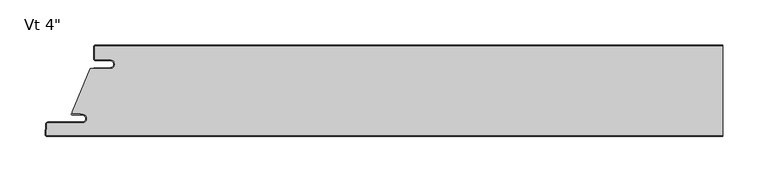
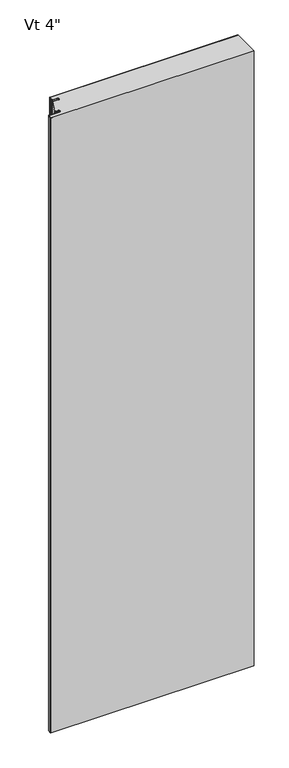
"""IFC4 building model written with IfcOpenShell, lengths in millimetres: plate geometry."""

from ifc_helpers import new_model, si_unit, point, frame_2d, origin, origin_with_axes, place, context, project, spatial, polyline, circle_curve, trimmed, segment, composite_curve, outline, extrude, source, transform, mapped, element, save


def plate_40312dbb(model_context):
    return source(origin(), model_context, "Body", "SweptSolid", [
        extrude(outline(composite_curve([segment(polyline([(-329.9499998, -16.4625), (-345.8249998, -16.4625)]), True, "CONTINUOUS"), segment(trimmed(circle_curve(frame_2d((-345.8249998, -15.08125)), 1.38125), [point((-345.8249998, -16.4625))], [point((-347.2062498, -15.08125))], False, "CARTESIAN"), True, "CONTINUOUS"), segment(polyline([(-347.2062498, -15.08125), (-347.2062498, -2.38125)]), True, "CONTINUOUS"), segment(trimmed(circle_curve(frame_2d((-345.8249998, -2.38125)), 1.38125), [point((-347.2062498, -2.38125))], [point((-345.8249998, -1.0))], False, "CARTESIAN"), True, "CONTINUOUS"), segment(polyline([(-345.8249998, -1.0), (348.9999998, -1.0), (348.9999998, -100.6), (-399.6862034, -100.6)]), True, "CONTINUOUS"), segment(trimmed(circle_curve(frame_2d((-399.6862034, -99.21875)), 1.38125), [point((-399.6862034, -100.6))], [point((-401.0655604, -99.146461))], False, "CARTESIAN"), True, "CONTINUOUS"), segment(polyline([(-401.0655604, -99.146461), (-400.483179, -88.033961)]), True, "CONTINUOUS"), segment(trimmed(circle_curve(frame_2d((-399.1038219, -88.10625)), 1.38125), [point((-400.483179, -88.033961))], [point((-399.1038219, -86.725))], False, "CARTESIAN"), True, "CONTINUOUS"), segment(polyline([(-399.1038219, -86.725), (-360.9205173, -86.725)]), True, "CONTINUOUS"), segment(trimmed(circle_curve(frame_2d((-360.9205173, -81.75625)), 4.96875), [point((-360.9205173, -86.725))], [point((-360.9205173, -76.7875))], True, "CARTESIAN"), True, "CONTINUOUS"), segment(polyline([(-360.9205173, -76.7875), (-362.5080173, -76.99375), (-362.5080173, -76.2), (-372.0187498, -76.2), (-372.0187498, -74.6157227), (-352.1323421, -26.4), (-329.9499998, -26.4)]), True, "CONTINUOUS"), segment(trimmed(circle_curve(frame_2d((-329.9499998, -21.43125)), 4.96875), [point((-329.9499998, -26.4))], [point((-329.9499998, -16.4625))], True, "CARTESIAN"), True, "CONTINUOUS")], self_intersect=False)), origin_with_axes(), (0.0, 0.0, 1.0), 2400.0),
        extrude(outline(composite_curve([segment(polyline([(-348.2062498, -25.4), (-329.9499998, -25.4)]), True, "CONTINUOUS"), segment(trimmed(circle_curve(frame_2d((-329.9499998, -21.43125)), 3.96875), [point((-329.9499998, -25.4))], [point((-329.9499998, -17.4625))], True, "CARTESIAN"), True, "CONTINUOUS"), segment(polyline([(-329.9499998, -17.4625), (-345.8249998, -17.4625)]), True, "CONTINUOUS"), segment(trimmed(circle_curve(frame_2d((-345.8249998, -15.08125)), 2.38125), [point((-345.8249998, -17.4625))], [point((-348.2062498, -15.08125))], False, "CARTESIAN"), True, "CONTINUOUS"), segment(polyline([(-348.2062498, -15.08125), (-348.2062498, -2.38125)]), True, "CONTINUOUS"), segment(trimmed(circle_curve(frame_2d((-345.8249998, -2.38125)), 2.38125), [point((-348.2062498, -2.38125))], [point((-345.8249998, 0.0))], False, "CARTESIAN"), True, "CONTINUOUS"), segment(polyline([(-345.8249998, 0.0), (348.9999998, 0.0), (348.9999998, -1.0), (-345.8249998, -1.0)]), True, "CONTINUOUS"), segment(trimmed(circle_curve(frame_2d((-345.8249998, -2.38125)), 1.38125), [point((-345.8249998, -1.0))], [point((-347.2062498, -2.38125))], True, "CARTESIAN"), True, "CONTINUOUS"), segment(polyline([(-347.2062498, -2.38125), (-347.2062498, -15.08125)]), True, "CONTINUOUS"), segment(trimmed(circle_curve(frame_2d((-345.8249998, -15.08125)), 1.38125), [point((-347.2062498, -15.08125))], [point((-345.8249998, -16.4625))], True, "CARTESIAN"), True, "CONTINUOUS"), segment(polyline([(-345.8249998, -16.4625), (-329.9499998, -16.4625)]), True, "CONTINUOUS"), segment(trimmed(circle_curve(frame_2d((-329.9499998, -21.43125)), 4.96875), [point((-329.9499998, -16.4625))], [point((-329.9499998, -26.4))], False, "CARTESIAN"), True, "CONTINUOUS"), segment(polyline([(-329.9499998, -26.4), (-348.2062498, -26.4), (-348.2062498, -25.4)]), True, "CONTINUOUS")], self_intersect=False)), origin_with_axes(), (0.0, 0.0, 1.0), 2400.0),
        extrude(outline(composite_curve([segment(polyline([(-372.2314548, -76.2), (-362.5080173, -76.2), (-362.5080173, -76.99375), (-360.9205173, -76.7875)]), True, "CONTINUOUS"), segment(trimmed(circle_curve(frame_2d((-360.9205173, -81.75625)), 4.96875), [point((-360.9205173, -76.7875))], [point((-360.9205173, -86.725))], False, "CARTESIAN"), True, "CONTINUOUS"), segment(polyline([(-360.9205173, -86.725), (-399.1038219, -86.725)]), True, "CONTINUOUS"), segment(trimmed(circle_curve(frame_2d((-399.1038219, -88.10625)), 1.38125), [point((-399.1038219, -86.725))], [point((-400.483179, -88.033961))], True, "CARTESIAN"), True, "CONTINUOUS"), segment(polyline([(-400.483179, -88.033961), (-401.0655604, -99.146461)]), True, "CONTINUOUS"), segment(trimmed(circle_curve(frame_2d((-399.6862034, -99.21875)), 1.38125), [point((-401.0655604, -99.146461))], [point((-399.6862034, -100.6))], True, "CARTESIAN"), True, "CONTINUOUS"), segment(polyline([(-399.6862034, -100.6), (348.9999998, -100.6), (348.9999998, -101.6), (-399.6862034, -101.6)]), True, "CONTINUOUS"), segment(trimmed(circle_curve(frame_2d((-399.6862034, -99.21875)), 2.38125), [point((-399.6862034, -101.6))], [point((-402.0641899, -99.094125))], False, "CARTESIAN"), True, "CONTINUOUS"), segment(polyline([(-402.0641899, -99.094125), (-401.4818085, -87.981625)]), True, "CONTINUOUS"), segment(trimmed(circle_curve(frame_2d((-399.1038219, -88.10625)), 2.38125), [point((-401.4818085, -87.981625))], [point((-399.1038219, -85.725))], False, "CARTESIAN"), True, "CONTINUOUS"), segment(polyline([(-399.1038219, -85.725), (-360.9205173, -85.725)]), True, "CONTINUOUS"), segment(trimmed(circle_curve(frame_2d((-360.9205173, -81.75625)), 3.96875), [point((-360.9205173, -85.725))], [point((-360.9205173, -77.7875))], True, "CARTESIAN"), True, "CONTINUOUS"), segment(polyline([(-360.9205173, -77.7875), (-372.2314548, -77.7875)]), True, "CONTINUOUS"), segment(trimmed(circle_curve(frame_2d((-372.2314548, -76.99375)), 0.79375), [point((-372.2314548, -77.7875))], [point((-372.2314548, -76.2))], False, "CARTESIAN"), True, "CONTINUOUS")], self_intersect=False)), origin_with_axes(), (0.0, 0.0, 1.0), 2400.0),
    ])


if __name__ == "__main__":
    model = new_model("IFC4")
    model_context = context("Model", 3, world=origin())
    ifc_project = project(units=[si_unit("LENGTHUNIT", "METRE", prefix="MILLI")], contexts=[model_context])
    site = spatial("IfcSite", under=ifc_project)
    building = spatial("IfcBuilding", under=site)
    placement = place(None, origin())
    plate_shape = plate_40312dbb(model_context)
    element("IfcPlate", 1, ObjectType="KIP-30-DWTR-R19-CP-Vt-F : Vt 4\"", at=placement, inside=building, context=model_context, shape_type="MappedRepresentation", body=[
        mapped(plate_shape, transform((0.0, 0.0, 0.0), x_axis=(1.0, 0.0, 0.0), y_axis=(0.0, 1.0, 0.0), z_axis=(0.0, 0.0, 1.0))),
    ])
    save(model, "model.ifc")
